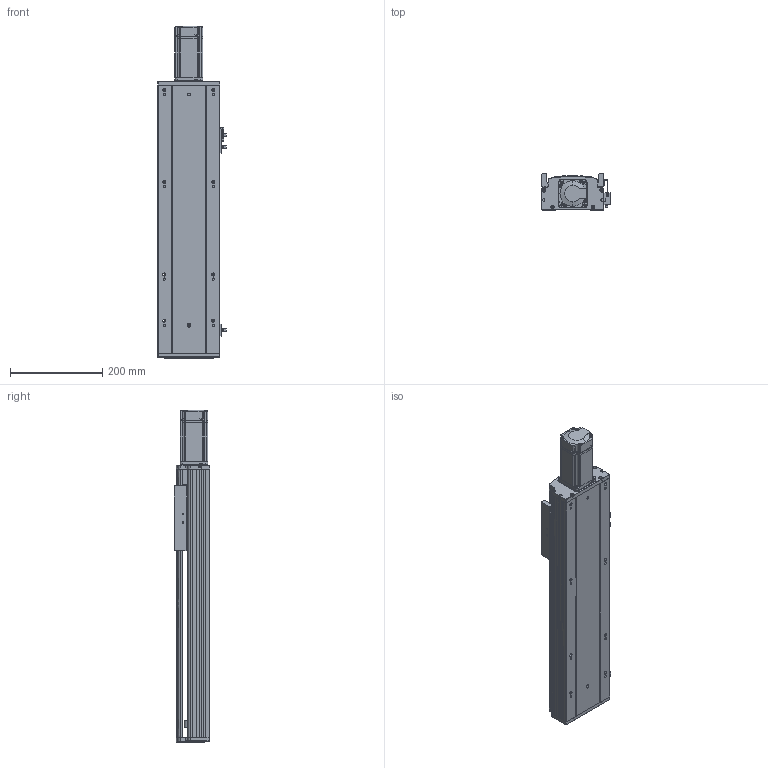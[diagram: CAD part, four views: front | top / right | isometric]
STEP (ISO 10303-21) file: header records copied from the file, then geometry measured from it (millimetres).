
FILE_DESCRIPTION (( 'STEP AP203' ), '1' );
FILE_NAME ('RY140Q-L2010-700-MK.SLDASM_0350.step', '2021-05-27T03:21:38', ( '盈信电脑' ), ( '东莞市道滘镇水果街19号' ), 'SwSTEP 2.0', 'SolidWorks 2016', '' );
FILE_SCHEMA (( 'CONFIG_CONTROL_DESIGN' ));
Length unit declared in the file: millimetre
Products named in the file (14): RY140Q萇儂傷盓傅釱FK12(80.5酗M5); 滅袉蝶18-15; RY140Q-L2010-700-MK.SLDASM_0350; 15; RY140Q-700-MK倰第菁釱_0350; RY140Q-700-MK倰第奻裔啣_0350; RY140Q臏賑輸(20佪裝-J); RY140綴裔啣; 滅袉蝶18-10; RY120外置感应片(140共用）; 侂狟400W侜督萇儂; 鞠褒坶踡蹟譫BK12 ; 覜茼ん672; RY140ヶ裔啣
Assembly tree (16 placements, depth 3):
  RY140Q-L2010-700-MK.SLDASM_0350
    RY140Q-700-MK倰第菁釱_0350
    RY140Q臏賑輸(20佪裝-J)
    RY140Q-700-MK倰第奻裔啣_0350
    RY140ヶ裔啣
    侂狟400W侜督萇儂
      15
    鞠褒坶踡蹟譫BK12 
    RY140綴裔啣
    覜茼ん672  x3
    RY120外置感应片(140共用）
    RY140Q萇儂傷盓傅釱FK12(80.5酗M5)
    滅袉蝶18-10
    滅袉蝶18-15  x2
Bounding box: 148.7 x 78 x 719.5 mm (x, y, z)
Volume: 2289561.7 mm3; surface area: 771855.4 mm2
Topology: 15 solids, 15 shells, 2007 faces, 5518 edges, 3547 vertices
Faces by surface type: plane 1078, cylinder 672, cone 172, bspline 85
Entity records: 66285 total; most frequent: CARTESIAN_POINT 15920, ORIENTED_EDGE 10384, DIRECTION 9850, EDGE_CURVE 5192, VERTEX_POINT 3407, LINE 3398, VECTOR 3398, AXIS2_PLACEMENT_3D 3226
